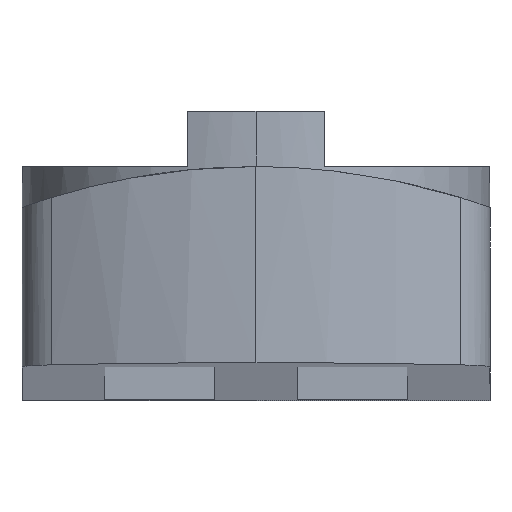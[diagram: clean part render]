
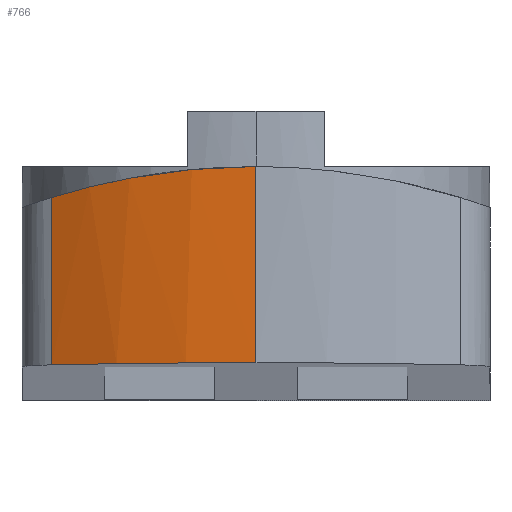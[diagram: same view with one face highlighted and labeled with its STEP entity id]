
A CAD part, left-side view. The second image highlights one B-rep face of the part: STEP entity #766.
In plain terms, the highlighted cylindrical face has radius 16 mm (diameter 32 mm), a partial arc.
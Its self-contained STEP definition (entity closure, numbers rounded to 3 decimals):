
#48 = CYLINDRICAL_SURFACE ( 'NONE', #1747, 16. ) ;
#97 = ORIENTED_EDGE ( 'NONE', *, *, #681, .T. ) ;
#224 = EDGE_CURVE ( 'NONE', #597, #1175, #1033, .T. ) ;
#227 = VERTEX_POINT ( 'NONE', #1286 ) ;
#265 = DIRECTION ( 'NONE',  ( 0., 0., -1. ) ) ;
#306 = VERTEX_POINT ( 'NONE', #934 ) ;
#320 = CARTESIAN_POINT ( 'NONE',  ( -24., 0., 8.5 ) ) ;
#442 = CARTESIAN_POINT ( 'NONE',  ( -39.378, 5.125, 1.348 ) ) ;
#443 = CARTESIAN_POINT ( 'NONE',  ( -38.465, 6.867, 7.545 ) ) ;
#448 = DIRECTION ( 'NONE',  ( -1., 0., 0. ) ) ;
#490 = CARTESIAN_POINT ( 'NONE',  ( -39.181, 5.093, 7.983 ) ) ;
#559 = ORIENTED_EDGE ( 'NONE', *, *, #224, .F. ) ;
#595 = B_SPLINE_CURVE_WITH_KNOTS ( 'NONE', 3,
 ( #1828, #810, #970, #636, #490, #1015, #443, #911 ),
 .UNSPECIFIED., .F., .F.,
 ( 4, 2, 2, 4 ),
 ( 0., 0.004, 0.006, 0.008 ),
 .UNSPECIFIED. ) ;
#597 = VERTEX_POINT ( 'NONE', #1502 ) ;
#636 = CARTESIAN_POINT ( 'NONE',  ( -39.375, 4.474, 8.105 ) ) ;
#681 = EDGE_CURVE ( 'NONE', #306, #1175, #797, .T. ) ;
#707 = LINE ( 'NONE', #1679, #865 ) ;
#711 = EDGE_CURVE ( 'NONE', #597, #227, #595, .T. ) ;
#766 = ADVANCED_FACE ( 'NONE', ( #1707 ), #48, .T. ) ;
#797 =( BOUNDED_CURVE ( )  B_SPLINE_CURVE ( 3, ( #1341, #442, #1189, #881 ),
 .UNSPECIFIED., .F., .T. ) 
 B_SPLINE_CURVE_WITH_KNOTS ( ( 4, 4 ),
 ( 2.659, 3.142 ),
 .UNSPECIFIED. ) 
 CURVE ( )  GEOMETRIC_REPRESENTATION_ITEM ( )  RATIONAL_B_SPLINE_CURVE ( ( 1., 0.981, 0.981, 1. ) ) 
 REPRESENTATION_ITEM ( '' )  );
#810 = CARTESIAN_POINT ( 'NONE',  ( -40., 1.316, 8.5 ) ) ;
#865 = VECTOR ( 'NONE', #1411, 1000. ) ;
#881 = CARTESIAN_POINT ( 'NONE',  ( -40., 0., 1.375 ) ) ;
#911 = CARTESIAN_POINT ( 'NONE',  ( -38.171, 7.429, 7.371 ) ) ;
#934 = CARTESIAN_POINT ( 'NONE',  ( -38.171, 7.429, 1.295 ) ) ;
#970 = CARTESIAN_POINT ( 'NONE',  ( -39.84, 2.598, 8.397 ) ) ;
#1015 = CARTESIAN_POINT ( 'NONE',  ( -38.726, 6.288, 7.704 ) ) ;
#1033 = LINE ( 'NONE', #1804, #1374 ) ;
#1113 = ORIENTED_EDGE ( 'NONE', *, *, #1258, .T. ) ;
#1175 = VERTEX_POINT ( 'NONE', #1364 ) ;
#1189 = CARTESIAN_POINT ( 'NONE',  ( -40., 2.6, 1.375 ) ) ;
#1258 = EDGE_CURVE ( 'NONE', #227, #306, #707, .T. ) ;
#1286 = CARTESIAN_POINT ( 'NONE',  ( -38.171, 7.429, 7.371 ) ) ;
#1290 = DIRECTION ( 'NONE',  ( 0., 0., -1. ) ) ;
#1313 = EDGE_LOOP ( 'NONE', ( #559, #1766, #1113, #97 ) ) ;
#1341 = CARTESIAN_POINT ( 'NONE',  ( -38.171, 7.429, 1.295 ) ) ;
#1364 = CARTESIAN_POINT ( 'NONE',  ( -40., 0., 1.375 ) ) ;
#1374 = VECTOR ( 'NONE', #265, 1000. ) ;
#1411 = DIRECTION ( 'NONE',  ( 0., 0., -1. ) ) ;
#1502 = CARTESIAN_POINT ( 'NONE',  ( -40., 0., 8.5 ) ) ;
#1679 = CARTESIAN_POINT ( 'NONE',  ( -38.171, 7.429, 8.5 ) ) ;
#1707 = FACE_OUTER_BOUND ( 'NONE', #1313, .T. ) ;
#1747 = AXIS2_PLACEMENT_3D ( 'NONE', #320, #1290, #448 ) ;
#1766 = ORIENTED_EDGE ( 'NONE', *, *, #711, .T. ) ;
#1804 = CARTESIAN_POINT ( 'NONE',  ( -40., 0., 8.5 ) ) ;
#1828 = CARTESIAN_POINT ( 'NONE',  ( -40., 0., 8.5 ) ) ;
